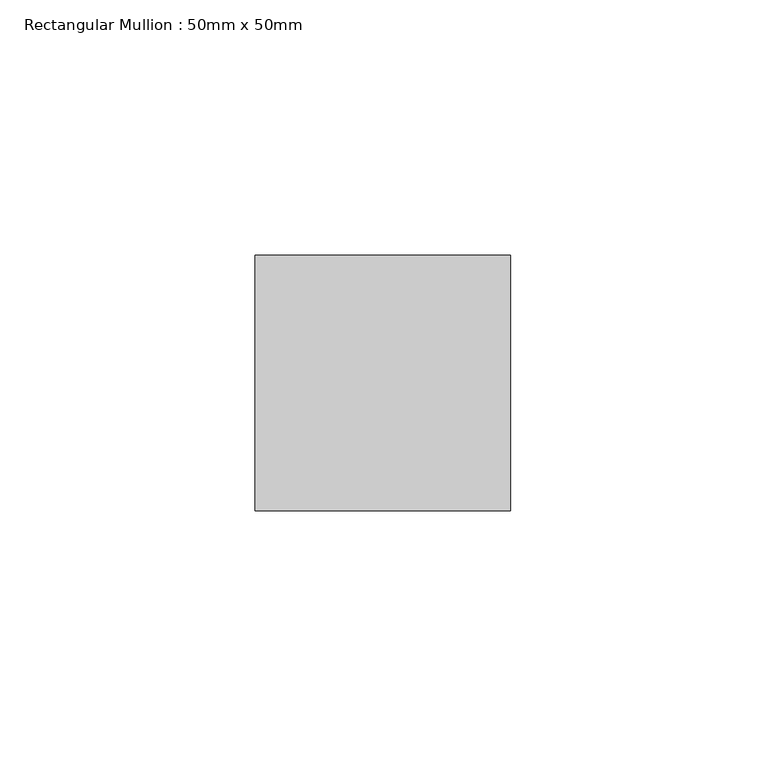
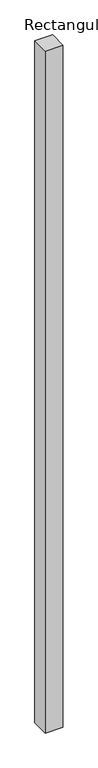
"""IFC4 building model written with IfcOpenShell, lengths in millimetres: member geometry, Rectangular Mullion : 50mm x 50mm."""

from ifc_helpers import new_model, si_unit, frame, origin, place, context, project, spatial, polyline, outline, extrude, source, transform, mapped, element, save


def rectangular_mullion_50mm_x_50mm_d7ae52ba(model_context):
    return source(origin(), model_context, "Body", "SweptSolid", [
        extrude(outline(polyline([(0.0, 25.0), (0.0, -25.0), (-50.0, -25.0), (-50.0, 25.0), (0.0, 25.0)])), frame((0.0, 0.0, -2025.4158264), z_axis=(0.0, 0.0, 1.0), x_axis=(1.0, 0.0, 0.0)), (0.0, 0.0, 1.0), 2025.4158264),
    ])


if __name__ == "__main__":
    model = new_model("IFC4")
    model_context = context("Model", 3, world=origin())
    ifc_project = project(units=[si_unit("LENGTHUNIT", "METRE", prefix="MILLI")], contexts=[model_context])
    site = spatial("IfcSite", under=ifc_project)
    building = spatial("IfcBuilding", under=site)
    placement = place(None, origin())
    rectangular_mullion_50mm_x_50mm_shape = rectangular_mullion_50mm_x_50mm_d7ae52ba(model_context)
    element("IfcMember", 1, ObjectType="Rectangular Mullion : 50mm x 50mm", at=placement, inside=building, context=model_context, shape_type="MappedRepresentation", body=[
        mapped(rectangular_mullion_50mm_x_50mm_shape, transform((0.0, 0.0, 0.0), x_axis=(1.0, 0.0, 0.0), y_axis=(0.0, 1.0, 0.0), z_axis=(0.0, 0.0, 1.0))),
    ])
    save(model, "model.ifc")
